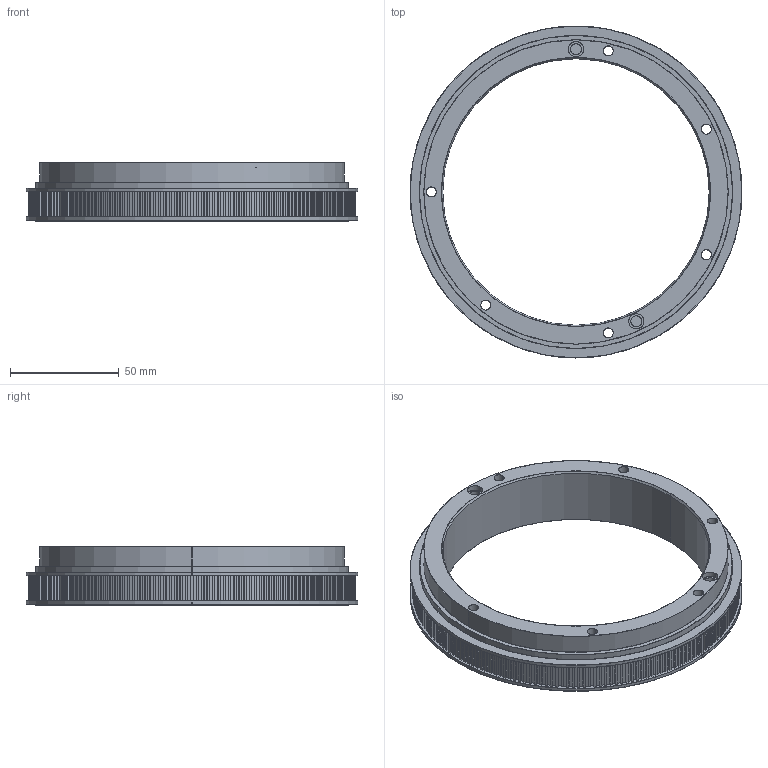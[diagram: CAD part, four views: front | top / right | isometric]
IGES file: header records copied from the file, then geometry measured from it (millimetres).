
Start section: SolidWorks IGES FILE using analytic representation for surfaces
Global section: file name: C:\Documents and Settings\jfeldman\My Documents\BRECOflex files\102291 rev B\1002291 rev B.IGS; native system: SolidWorks 2004 by SolidWorks Corporation; preprocessor: Version 5.3; author: jfeldman; date: 040315.121443; units: millimetre
Bounding box: 152.71 x 152.71 x 27 mm (x, y, z)
Surface area: 42671.3 mm2 (no closed solid volume)
Topology: 0 solids, 0 shells, 808 faces, 8554 edges, 10928 vertices
Faces by surface type: bspline 576, revolution 232
